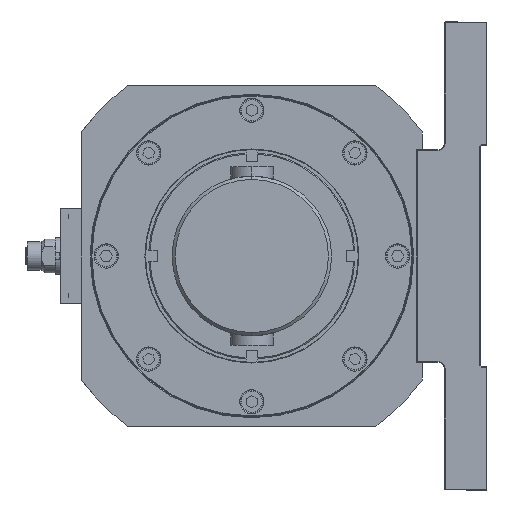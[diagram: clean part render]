
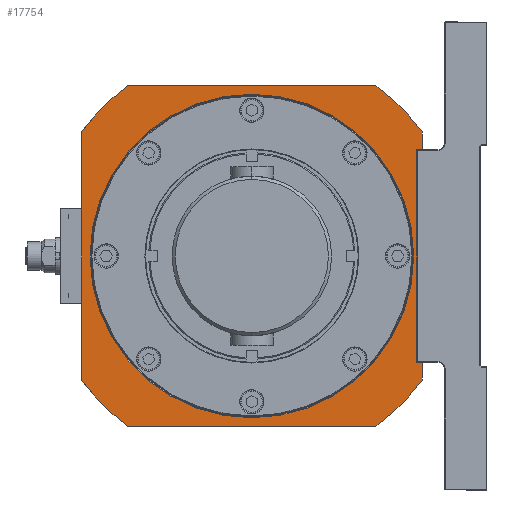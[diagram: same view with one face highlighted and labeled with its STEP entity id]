
A CAD part, left-side view. The second image highlights one B-rep face of the part: STEP entity #17754.
In plain terms, the highlighted planar face has unit normal (-1, 0, 0).
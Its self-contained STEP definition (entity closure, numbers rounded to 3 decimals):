
#147 = DIRECTION ( 'NONE',  ( 0., 0., -1. ) ) ;
#478 = EDGE_LOOP ( 'NONE', ( #28567, #36304, #2837, #32129, #8771, #2620, #16727, #40909, #1686, #35532, #10693, #37161 ) ) ;
#620 = DIRECTION ( 'NONE',  ( 1., 0., 0. ) ) ;
#1220 = DIRECTION ( 'NONE',  ( 0., 0., -1. ) ) ;
#1686 = ORIENTED_EDGE ( 'NONE', *, *, #40908, .F. ) ;
#1858 = LINE ( 'NONE', #30984, #5692 ) ;
#2047 = VERTEX_POINT ( 'NONE', #25420 ) ;
#2182 = CARTESIAN_POINT ( 'NONE',  ( -70.5, 0., 0. ) ) ;
#2620 = ORIENTED_EDGE ( 'NONE', *, *, #7124, .F. ) ;
#2837 = ORIENTED_EDGE ( 'NONE', *, *, #4755, .F. ) ;
#4298 = CIRCLE ( 'NONE', #21672, 76.05 ) ;
#4755 = EDGE_CURVE ( 'NONE', #31223, #14492, #32692, .T. ) ;
#5622 = AXIS2_PLACEMENT_3D ( 'NONE', #30327, #33479, #1220 ) ;
#5692 = VECTOR ( 'NONE', #15264, 1000. ) ;
#5754 = DIRECTION ( 'NONE',  ( 0., 0., -1. ) ) ;
#6071 = CARTESIAN_POINT ( 'NONE',  ( -70.5, -77.5, 50. ) ) ;
#6643 = DIRECTION ( 'NONE',  ( 1., 0., 0. ) ) ;
#6661 = CARTESIAN_POINT ( 'NONE',  ( -70.5, 0., -76.05 ) ) ;
#6809 = CARTESIAN_POINT ( 'NONE',  ( -70.5, -77.5, -50. ) ) ;
#7063 = CARTESIAN_POINT ( 'NONE',  ( -70.5, 0., 0. ) ) ;
#7124 = EDGE_CURVE ( 'NONE', #34249, #17111, #37610, .T. ) ;
#7203 = CARTESIAN_POINT ( 'NONE',  ( -70.5, 80., 58.318 ) ) ;
#8009 = VECTOR ( 'NONE', #37899, 1000. ) ;
#8044 = VERTEX_POINT ( 'NONE', #20590 ) ;
#8421 = VECTOR ( 'NONE', #37535, 1000. ) ;
#8557 = ORIENTED_EDGE ( 'NONE', *, *, #13220, .T. ) ;
#8771 = ORIENTED_EDGE ( 'NONE', *, *, #40184, .F. ) ;
#9407 = EDGE_CURVE ( 'NONE', #14492, #23572, #37337, .T. ) ;
#9782 = AXIS2_PLACEMENT_3D ( 'NONE', #11212, #39302, #10612 ) ;
#10612 = DIRECTION ( 'NONE',  ( 0., 0., -1. ) ) ;
#10693 = ORIENTED_EDGE ( 'NONE', *, *, #16383, .F. ) ;
#10722 = CARTESIAN_POINT ( 'NONE',  ( -70.5, 58.318, 80. ) ) ;
#10962 = EDGE_CURVE ( 'NONE', #26768, #12601, #1858, .T. ) ;
#11212 = CARTESIAN_POINT ( 'NONE',  ( -70.5, 0., 0. ) ) ;
#12601 = VERTEX_POINT ( 'NONE', #16104 ) ;
#12805 = AXIS2_PLACEMENT_3D ( 'NONE', #2182, #27545, #5754 ) ;
#12808 = EDGE_CURVE ( 'NONE', #8044, #2047, #13577, .T. ) ;
#12861 = CARTESIAN_POINT ( 'NONE',  ( -70.5, 0., 0. ) ) ;
#13220 = EDGE_CURVE ( 'NONE', #24007, #17080, #4298, .T. ) ;
#13577 = LINE ( 'NONE', #23425, #17644 ) ;
#14306 = ORIENTED_EDGE ( 'NONE', *, *, #32453, .T. ) ;
#14492 = VERTEX_POINT ( 'NONE', #10722 ) ;
#14684 = DIRECTION ( 'NONE',  ( 0., 0., -1. ) ) ;
#15264 = DIRECTION ( 'NONE',  ( 0., 0., -1. ) ) ;
#15480 = CIRCLE ( 'NONE', #12805, 99. ) ;
#15747 = CARTESIAN_POINT ( 'NONE',  ( -70.5, 58.318, 80. ) ) ;
#15786 = VERTEX_POINT ( 'NONE', #6809 ) ;
#15910 = LINE ( 'NONE', #19257, #8009 ) ;
#16104 = CARTESIAN_POINT ( 'NONE',  ( -70.5, -80., -58.318 ) ) ;
#16367 = CIRCLE ( 'NONE', #39762, 99. ) ;
#16383 = EDGE_CURVE ( 'NONE', #2047, #23485, #15910, .T. ) ;
#16554 = CARTESIAN_POINT ( 'NONE',  ( -70.5, -58.318, 80. ) ) ;
#16623 = VECTOR ( 'NONE', #36437, 1000. ) ;
#16709 = CIRCLE ( 'NONE', #28772, 99. ) ;
#16727 = ORIENTED_EDGE ( 'NONE', *, *, #25823, .F. ) ;
#17045 = DIRECTION ( 'NONE',  ( 0., -1., 0. ) ) ;
#17080 = VERTEX_POINT ( 'NONE', #36074 ) ;
#17111 = VERTEX_POINT ( 'NONE', #26434 ) ;
#17644 = VECTOR ( 'NONE', #36208, 1000. ) ;
#17754 = ADVANCED_FACE ( 'NONE', ( #30537, #20886 ), #39552, .F. ) ;
#18548 = DIRECTION ( 'NONE',  ( 0., 1., 0. ) ) ;
#19140 = EDGE_CURVE ( 'NONE', #23485, #15786, #25190, .T. ) ;
#19257 = CARTESIAN_POINT ( 'NONE',  ( -70.5, -77.5, 50. ) ) ;
#19829 = CIRCLE ( 'NONE', #9782, 76.05 ) ;
#20197 = LINE ( 'NONE', #32985, #21739 ) ;
#20590 = CARTESIAN_POINT ( 'NONE',  ( -70.5, -80., 58.318 ) ) ;
#20886 = FACE_OUTER_BOUND ( 'NONE', #478, .T. ) ;
#21672 = AXIS2_PLACEMENT_3D ( 'NONE', #12861, #32151, #25230 ) ;
#21697 = CARTESIAN_POINT ( 'NONE',  ( -70.5, 58.318, -80. ) ) ;
#21739 = VECTOR ( 'NONE', #17045, 1000. ) ;
#21741 = VECTOR ( 'NONE', #35268, 1000. ) ;
#23425 = CARTESIAN_POINT ( 'NONE',  ( -70.5, -80., 58.318 ) ) ;
#23485 = VERTEX_POINT ( 'NONE', #6071 ) ;
#23572 = VERTEX_POINT ( 'NONE', #16554 ) ;
#23787 = EDGE_CURVE ( 'NONE', #41240, #31223, #30155, .T. ) ;
#23859 = CARTESIAN_POINT ( 'NONE',  ( -70.5, 80., 58.318 ) ) ;
#24007 = VERTEX_POINT ( 'NONE', #6661 ) ;
#25190 = LINE ( 'NONE', #38169, #21741 ) ;
#25230 = DIRECTION ( 'NONE',  ( 0., 0., -1. ) ) ;
#25420 = CARTESIAN_POINT ( 'NONE',  ( -70.5, -80., 50. ) ) ;
#25823 = EDGE_CURVE ( 'NONE', #12601, #34249, #16709, .T. ) ;
#26434 = CARTESIAN_POINT ( 'NONE',  ( -70.5, 58.318, -80. ) ) ;
#26523 = CARTESIAN_POINT ( 'NONE',  ( -70.5, 0., 0. ) ) ;
#26768 = VERTEX_POINT ( 'NONE', #37625 ) ;
#27545 = DIRECTION ( 'NONE',  ( 1., 0., 0. ) ) ;
#28183 = CARTESIAN_POINT ( 'NONE',  ( -70.5, -58.318, -80. ) ) ;
#28567 = ORIENTED_EDGE ( 'NONE', *, *, #35381, .F. ) ;
#28772 = AXIS2_PLACEMENT_3D ( 'NONE', #26523, #30625, #14684 ) ;
#29482 = CARTESIAN_POINT ( 'NONE',  ( -70.5, 80., -58.318 ) ) ;
#30155 = LINE ( 'NONE', #23859, #16623 ) ;
#30327 = CARTESIAN_POINT ( 'NONE',  ( -70.5, 0., 0. ) ) ;
#30537 = FACE_BOUND ( 'NONE', #39732, .T. ) ;
#30625 = DIRECTION ( 'NONE',  ( 1., 0., 0. ) ) ;
#30863 = VECTOR ( 'NONE', #18548, 1000. ) ;
#30984 = CARTESIAN_POINT ( 'NONE',  ( -70.5, -80., -50. ) ) ;
#31223 = VERTEX_POINT ( 'NONE', #7203 ) ;
#32129 = ORIENTED_EDGE ( 'NONE', *, *, #23787, .F. ) ;
#32151 = DIRECTION ( 'NONE',  ( 1., 0., 0. ) ) ;
#32453 = EDGE_CURVE ( 'NONE', #17080, #24007, #19829, .T. ) ;
#32692 = CIRCLE ( 'NONE', #34688, 99. ) ;
#32985 = CARTESIAN_POINT ( 'NONE',  ( -70.5, -77.5, -50. ) ) ;
#33479 = DIRECTION ( 'NONE',  ( 1., 0., 0. ) ) ;
#34249 = VERTEX_POINT ( 'NONE', #28183 ) ;
#34688 = AXIS2_PLACEMENT_3D ( 'NONE', #38319, #620, #34999 ) ;
#34999 = DIRECTION ( 'NONE',  ( 0., 0., -1. ) ) ;
#35268 = DIRECTION ( 'NONE',  ( 0., 0., -1. ) ) ;
#35381 = EDGE_CURVE ( 'NONE', #23572, #8044, #15480, .T. ) ;
#35532 = ORIENTED_EDGE ( 'NONE', *, *, #19140, .F. ) ;
#36074 = CARTESIAN_POINT ( 'NONE',  ( -70.5, 0., 76.05 ) ) ;
#36208 = DIRECTION ( 'NONE',  ( 0., 0., -1. ) ) ;
#36304 = ORIENTED_EDGE ( 'NONE', *, *, #9407, .F. ) ;
#36437 = DIRECTION ( 'NONE',  ( 0., 0., 1. ) ) ;
#37161 = ORIENTED_EDGE ( 'NONE', *, *, #12808, .F. ) ;
#37337 = LINE ( 'NONE', #15747, #8421 ) ;
#37535 = DIRECTION ( 'NONE',  ( 0., -1., 0. ) ) ;
#37610 = LINE ( 'NONE', #21697, #30863 ) ;
#37625 = CARTESIAN_POINT ( 'NONE',  ( -70.5, -80., -50. ) ) ;
#37899 = DIRECTION ( 'NONE',  ( 0., 1., 0. ) ) ;
#38169 = CARTESIAN_POINT ( 'NONE',  ( -70.5, -77.5, 50. ) ) ;
#38319 = CARTESIAN_POINT ( 'NONE',  ( -70.5, 0., 0. ) ) ;
#39302 = DIRECTION ( 'NONE',  ( 1., 0., 0. ) ) ;
#39552 = PLANE ( 'NONE',  #5622 ) ;
#39732 = EDGE_LOOP ( 'NONE', ( #14306, #8557 ) ) ;
#39762 = AXIS2_PLACEMENT_3D ( 'NONE', #7063, #6643, #147 ) ;
#40184 = EDGE_CURVE ( 'NONE', #17111, #41240, #16367, .T. ) ;
#40908 = EDGE_CURVE ( 'NONE', #15786, #26768, #20197, .T. ) ;
#40909 = ORIENTED_EDGE ( 'NONE', *, *, #10962, .F. ) ;
#41240 = VERTEX_POINT ( 'NONE', #29482 ) ;
